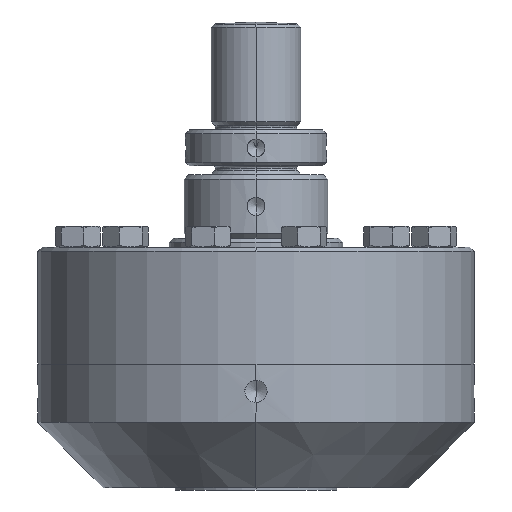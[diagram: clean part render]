
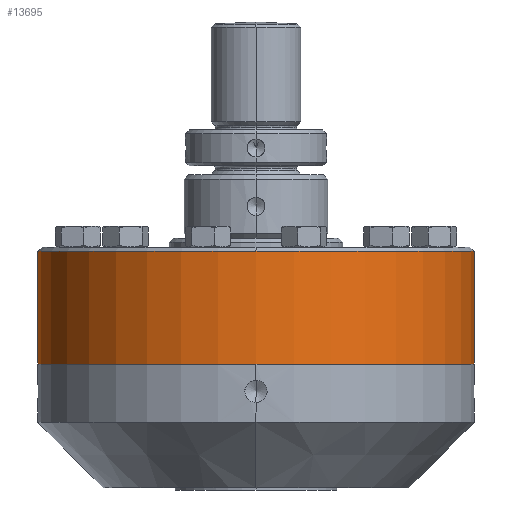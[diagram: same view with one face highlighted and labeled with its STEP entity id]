
A CAD part, left-side view. The second image highlights one B-rep face of the part: STEP entity #13695.
In plain terms, the highlighted cylindrical face has radius 76.975 mm (diameter 153.949 mm), a partial arc.
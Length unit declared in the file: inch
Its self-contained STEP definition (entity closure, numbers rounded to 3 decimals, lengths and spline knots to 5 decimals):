
#350 = CARTESIAN_POINT ( 'NONE',  ( 0., -3.0305, -0.06 ) ) ;
#356 = CARTESIAN_POINT ( 'NONE',  ( 0., -3.0305, -1.625 ) ) ;
#463 = LINE ( 'NONE', #464, #465 ) ;
#464 = CARTESIAN_POINT ( 'NONE',  ( 0., -3.0305, -0.06 ) ) ;
#465 = VECTOR ( 'NONE', #466, 39.37008 ) ;
#466 = DIRECTION ( 'NONE',  ( 0., 0., -1. ) ) ;
#522 = EDGE_CURVE ( 'NONE', #13206, #1531, #14254, .T. ) ;
#1531 = VERTEX_POINT ( 'NONE', #14989 ) ;
#2757 = VERTEX_POINT ( 'NONE', #350 ) ;
#2778 = VERTEX_POINT ( 'NONE', #356 ) ;
#3036 = EDGE_CURVE ( 'NONE', #2757, #2778, #463, .T. ) ;
#6468 = CIRCLE ( 'NONE', #6469, 3.0305 ) ;
#6469 = AXIS2_PLACEMENT_3D ( 'NONE', #6470, #6471, #6472 ) ;
#6470 = CARTESIAN_POINT ( 'NONE',  ( 0., 0., -0.06 ) ) ;
#6471 = DIRECTION ( 'NONE',  ( 0., 0., 1. ) ) ;
#6472 = DIRECTION ( 'NONE',  ( -1., 0., 0. ) ) ;
#7634 = CIRCLE ( 'NONE', #7635, 3.0305 ) ;
#7635 = AXIS2_PLACEMENT_3D ( 'NONE', #7636, #7637, #7638 ) ;
#7636 = CARTESIAN_POINT ( 'NONE',  ( 0., 0., -1.625 ) ) ;
#7637 = DIRECTION ( 'NONE',  ( 0., 0., 1. ) ) ;
#7638 = DIRECTION ( 'NONE',  ( 0., 1., 0. ) ) ;
#9232 = CARTESIAN_POINT ( 'NONE',  ( -3.0305, 0., -0.06 ) ) ;
#9777 = CARTESIAN_POINT ( 'NONE',  ( 0., 3.0305, -0.06 ) ) ;
#9939 = CIRCLE ( 'NONE', #9942, 3.0305 ) ;
#9942 = AXIS2_PLACEMENT_3D ( 'NONE', #9943, #9944, #9945 ) ;
#9943 = CARTESIAN_POINT ( 'NONE',  ( 0., 0., -0.06 ) ) ;
#9944 = DIRECTION ( 'NONE',  ( 0., 0., 1. ) ) ;
#9945 = DIRECTION ( 'NONE',  ( -1., 0., 0. ) ) ;
#11150 = FACE_OUTER_BOUND ( 'NONE', #13636, .T. ) ;
#11151 = CYLINDRICAL_SURFACE ( 'NONE', #11152, 3.0305 ) ;
#11152 = AXIS2_PLACEMENT_3D ( 'NONE', #11153, #11154, #11155 ) ;
#11153 = CARTESIAN_POINT ( 'NONE',  ( 0., 0., -0.06 ) ) ;
#11154 = DIRECTION ( 'NONE',  ( 0., 0., -1. ) ) ;
#11155 = DIRECTION ( 'NONE',  ( 0., 1., 0. ) ) ;
#11308 = EDGE_CURVE ( 'NONE', #13206, #13029, #6468, .T. ) ;
#12386 = EDGE_CURVE ( 'NONE', #1531, #2778, #7634, .T. ) ;
#12820 = ORIENTED_EDGE ( 'NONE', *, *, #12386, .T. ) ;
#12954 = ORIENTED_EDGE ( 'NONE', *, *, #522, .T. ) ;
#13029 = VERTEX_POINT ( 'NONE', #9232 ) ;
#13088 = ORIENTED_EDGE ( 'NONE', *, *, #11308, .F. ) ;
#13206 = VERTEX_POINT ( 'NONE', #9777 ) ;
#13256 = EDGE_CURVE ( 'NONE', #13029, #2757, #9939, .T. ) ;
#13367 = ORIENTED_EDGE ( 'NONE', *, *, #13256, .F. ) ;
#13500 = ORIENTED_EDGE ( 'NONE', *, *, #3036, .F. ) ;
#13636 = EDGE_LOOP ( 'NONE', ( #13500, #13367, #13088, #12954, #12820 ) ) ;
#13695 = ADVANCED_FACE ( 'NONE', ( #11150 ), #11151, .T. ) ;
#14254 = LINE ( 'NONE', #14255, #14256 ) ;
#14255 = CARTESIAN_POINT ( 'NONE',  ( 0., 3.0305, -0.06 ) ) ;
#14256 = VECTOR ( 'NONE', #14257, 39.37008 ) ;
#14257 = DIRECTION ( 'NONE',  ( 0., 0., -1. ) ) ;
#14989 = CARTESIAN_POINT ( 'NONE',  ( 0., 3.0305, -1.625 ) ) ;
